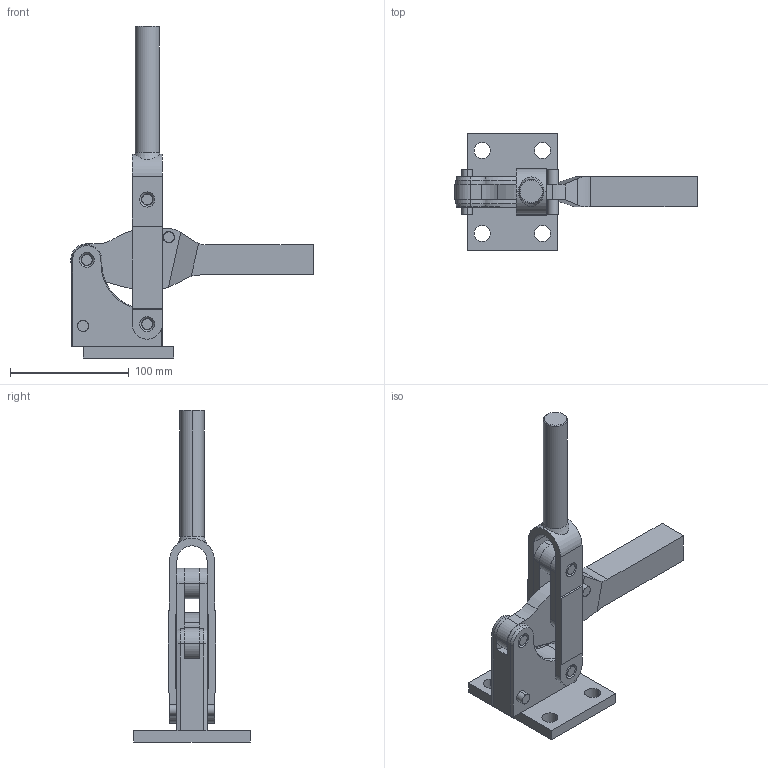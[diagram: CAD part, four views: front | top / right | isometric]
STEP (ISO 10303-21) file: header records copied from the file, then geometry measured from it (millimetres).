
FILE_DESCRIPTION( ( '' ), '1' );
FILE_NAME( 'C:\Documents and Settings\Richard Grenzke\My Documents\Wolverine Company Data\WOLVERINE CD 5_17_05\SOLIDS STEP\hold_down\cq915a.stp', ' ', ( '' ), ( '' ), 'ACIS Interop R16', 'Kubotek KeyCreator V5.5.1 (0454)', ' ' );
FILE_SCHEMA( ( 'CONFIG_CONTROL_DESIGN' ) );
Length unit declared in the file: inch
Products named in the file (13): 1; 2; 3; 4; 5; 6; 7; 8; 9; 10; 11; 12; 13
Bounding box: 203.99 x 98.42 x 279.32 mm (x, y, z)
Volume: 392102.9 mm3; surface area: 104046.5 mm2
Topology: 12 solids, 12 shells, 195 faces, 497 edges, 326 vertices
Faces by surface type: cylinder 84, plane 79, cone 30, torus 2
Entity records: 6686 total; most frequent: CARTESIAN_POINT 1127, DIRECTION 1121, ORIENTED_EDGE 994, EDGE_CURVE 497, AXIS2_PLACEMENT_3D 428, VERTEX_POINT 326, LINE 265, VECTOR 265
